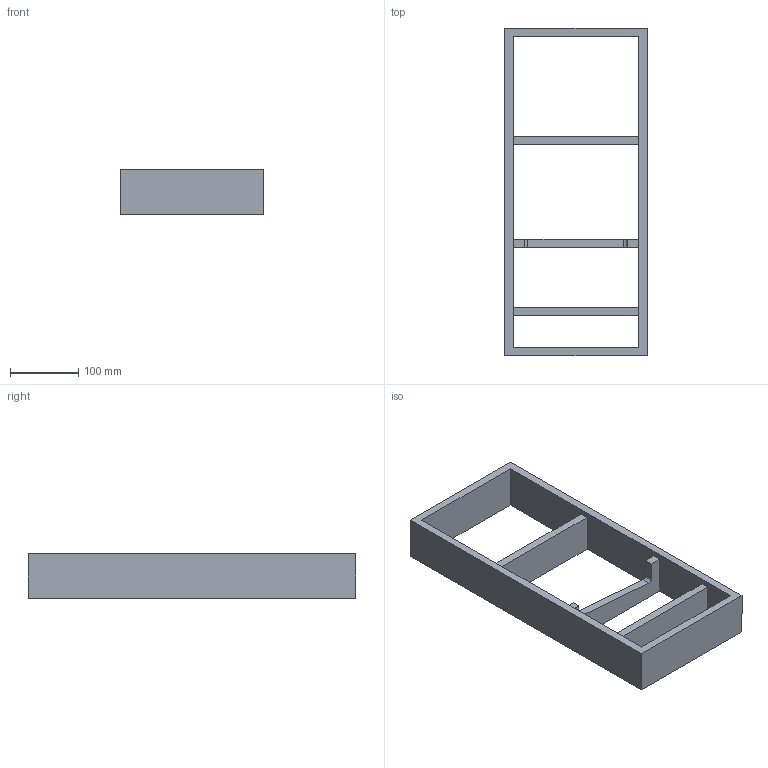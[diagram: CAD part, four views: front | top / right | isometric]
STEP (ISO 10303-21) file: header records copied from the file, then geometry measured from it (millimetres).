
FILE_DESCRIPTION (( 'STEP AP214' ), '1' );
FILE_NAME ('Vario Messer_Modul_H65_NL500_B300_16mm_Alu_Buche.step', '2010-10-07T06:11:45', ( 'grass' ), ( '' ), 'SwSTEP 2.0', 'SolidWorks 2010', '' );
FILE_SCHEMA (( 'AUTOMOTIVE_DESIGN' ));
Length unit declared in the file: millimetre
Products named in the file (1): Vario Messer_Modul_H65_NL500_B300_16mm_Alu_Buche
Bounding box: 208 x 479 x 65 mm (x, y, z)
Volume: 1365178.7 mm3; surface area: 269075.3 mm2
Topology: 1 solids, 1 shells, 25 faces, 78 edges, 52 vertices
Faces by surface type: plane 23, cylinder 2
Entity records: 906 total; most frequent: ORIENTED_EDGE 156, CARTESIAN_POINT 156, DIRECTION 134, EDGE_CURVE 78, VECTOR 74, LINE 74, VERTEX_POINT 52, EDGE_LOOP 30
